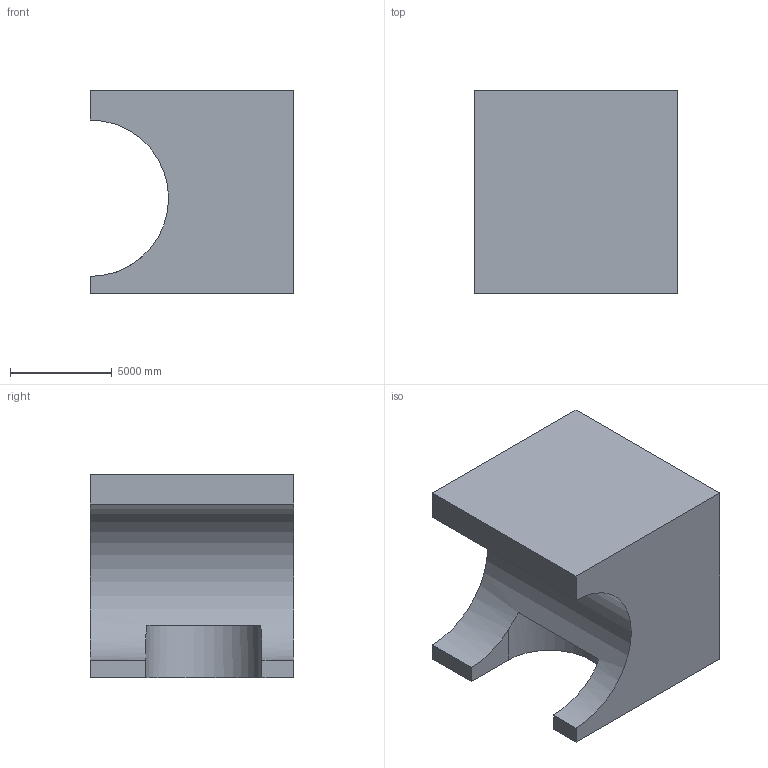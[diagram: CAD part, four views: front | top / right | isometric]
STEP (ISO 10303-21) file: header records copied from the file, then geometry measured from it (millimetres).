
FILE_DESCRIPTION (( 'STEP AP203' ), '1' );
FILE_NAME ('1039.STEP', '2022-08-18T12:31:15', ( 'user' ), ( '' ), 'SwSTEP 2.0', 'SolidWorks 2021', '' );
FILE_SCHEMA (( 'CONFIG_CONTROL_DESIGN' ));
Length unit declared in the file: centimetre
Products named in the file (1): 1039
Bounding box: 10000 x 10000 x 10000 mm (x, y, z)
Volume: 718624308668 mm3; surface area: 581163251.7 mm2
Topology: 1 solids, 1 shells, 13 faces, 33 edges, 22 vertices
Faces by surface type: plane 11, cylinder 2
Entity records: 488 total; most frequent: CARTESIAN_POINT 91, ORIENTED_EDGE 66, DIRECTION 65, EDGE_CURVE 33, VECTOR 25, LINE 25, VERTEX_POINT 22, AXIS2_PLACEMENT_3D 20
